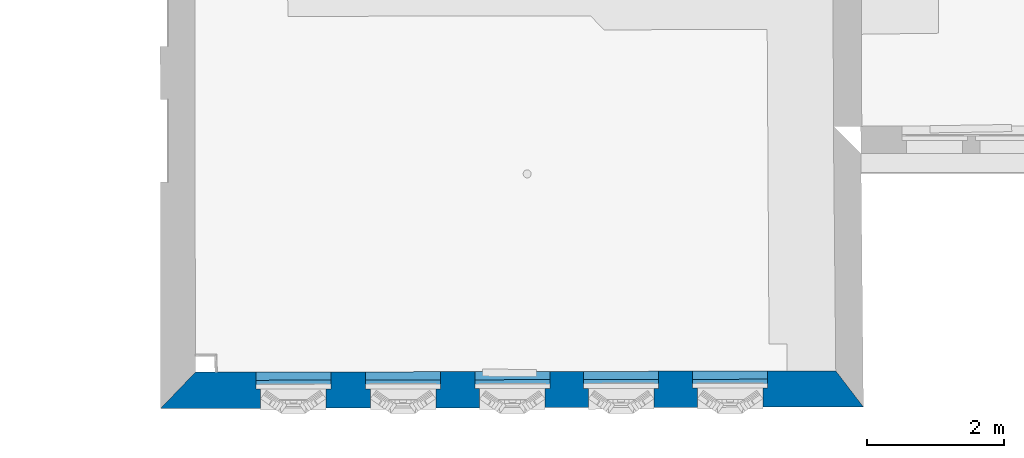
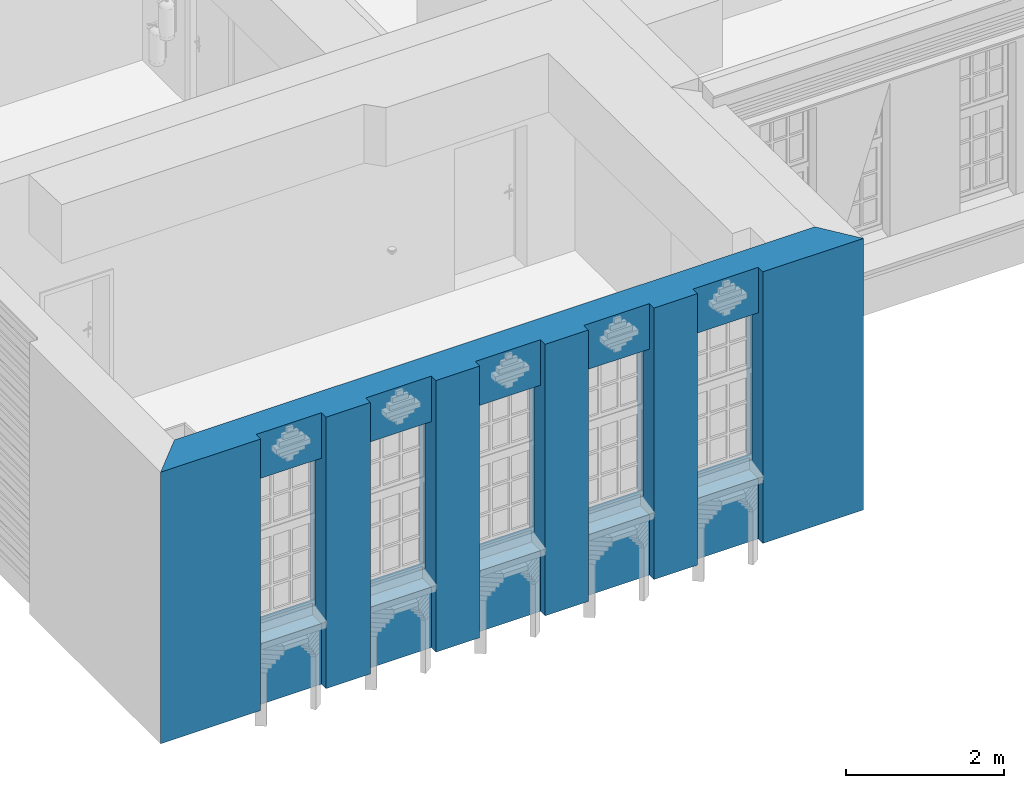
# One storey, part 8 of 90: 1 wall, 10 openings.
"""IFC2X3 building model written with IfcOpenShell, lengths in metres."""

import ifcopenshell
import ifcopenshell.guid

model = None  # the IFC model being written
_history = None  # IfcOwnerHistory: only IFC2X3 demands one
_inside = {}  # id of a spatial element -> (the spatial element, [elements in it])
_under = {}  # id of a project, library or spatial element -> (it, [spatial elements below it])
_declared = {}  # id of a project -> (the project, [libraries it declares])
_typed = {}  # id of a type object -> (the type object, [elements of that type])
_made_of = {}  # id of a material, layer set ... -> (it, [elements and type objects made of it])


def new_model(schema):
    """Start an empty IFC model of exactly this schema.

    Asked for "IFC4X3", IfcOpenShell would pick the latest addendum, in which some entities
    have other attributes; the version numbers below select the first issue.
    IFC2X3 requires an IfcOwnerHistory on every rooted entity: one is made here for all.
    """
    global model, _history
    if schema == "IFC4X3":
        model = ifcopenshell.file(schema_version=(4, 3, 0, 0))
    else:
        model = ifcopenshell.file(schema=schema)
    _inside.clear()
    _under.clear()
    _declared.clear()
    _typed.clear()
    _made_of.clear()
    _history = None
    if model.schema == "IFC2X3":
        org = make("IfcOrganization", Name="unknown")
        user = make(
            "IfcPersonAndOrganization",
            ThePerson=make("IfcPerson", FamilyName="unknown"),
            TheOrganization=org,
        )
        app = make(
            "IfcApplication",
            ApplicationDeveloper=org,
            Version="unknown",
            ApplicationFullName="unknown",
            ApplicationIdentifier="unknown",
        )
        _history = make(
            "IfcOwnerHistory",
            OwningUser=user,
            OwningApplication=app,
            ChangeAction="ADDED",
            CreationDate=0,
        )
    return model


def make(cls, **values):
    """One entity of the class cls with the attributes given. An attribute that is None is left unset."""
    return model.create_entity(
        cls, **{name: value for name, value in values.items() if value is not None}
    )


def entity(cls, *values):
    """Any entity or typed value of the class cls, its attributes in the order of the schema. None: left unset."""
    e = model.create_entity(cls)
    for i, value in enumerate(values):
        if value is not None:
            e[i] = value
    return e


def rooted(cls, **values):
    """An entity with a GlobalId (a new one), such as an element, a storey or a relation."""
    return make(cls, GlobalId=ifcopenshell.guid.new(), OwnerHistory=_history, **values)


def si_unit(unit_type, name, prefix=None):
    """IfcSIUnit, for example si_unit("LENGTHUNIT", "METRE", prefix="MILLI")."""
    return make("IfcSIUnit", UnitType=unit_type, Prefix=prefix, Name=name)


def converted_unit(unit_type, name, factor, base, dimensions=None, offset=None):
    """IfcConversionBasedUnit, such as the inch: factor (a typed value) times the base unit."""
    return make(
        "IfcConversionBasedUnit"
        if offset is None
        else "IfcConversionBasedUnitWithOffset",
        ConversionOffset=offset,
        Dimensions=None
        if dimensions is None
        else entity("IfcDimensionalExponents", *dimensions),
        UnitType=unit_type,
        Name=name,
        ConversionFactor=make(
            "IfcMeasureWithUnit", ValueComponent=factor, UnitComponent=base
        ),
    )


def derived_unit(unit_type, elements):
    """IfcDerivedUnit: a product of units, each with its exponent."""
    return make(
        "IfcDerivedUnit",
        Elements=[
            make("IfcDerivedUnitElement", Unit=unit, Exponent=power)
            for unit, power in elements
        ],
        UnitType=unit_type,
    )


def money_unit(currency):
    """IfcMonetaryUnit."""
    return make("IfcMonetaryUnit", Currency=currency)


def assignment(units):
    """IfcUnitAssignment: the units of a project."""
    return None if units is None else make("IfcUnitAssignment", Units=units)


def point(xyz):
    """IfcCartesianPoint."""
    return None if xyz is None else make("IfcCartesianPoint", Coordinates=xyz)


def direction(xyz):
    """IfcDirection."""
    return None if xyz is None else make("IfcDirection", DirectionRatios=xyz)


def frame(location, z_axis=None, x_axis=None):
    """IfcAxis2Placement3D, a coordinate frame: its origin and axes. An axis left out is left unset."""
    return make(
        "IfcAxis2Placement3D",
        Location=point(location),
        Axis=direction(z_axis),
        RefDirection=direction(x_axis),
    )


def frame_2d(location, x_axis=None):
    """IfcAxis2Placement2D, a coordinate frame in the plane: its origin and x axis."""
    return make(
        "IfcAxis2Placement2D", Location=point(location), RefDirection=direction(x_axis)
    )


def origin_with_axes():
    """The frame at (0, 0, 0) with the z axis (0, 0, 1) and the x axis (1, 0, 0) written out."""
    return frame((0.0, 0.0, 0.0), z_axis=(0.0, 0.0, 1.0), x_axis=(1.0, 0.0, 0.0))


def origin_2d_with_axis():
    """The frame at (0, 0) in the plane with the x axis (1, 0) written out."""
    return frame_2d((0.0, 0.0), x_axis=(1.0, 0.0))


def place(relative_to, where):
    """IfcLocalPlacement: puts the frame where relative to a parent placement (None: the world)."""
    return make(
        "IfcLocalPlacement", PlacementRelTo=relative_to, RelativePlacement=where
    )


def context(
    kind, dimensions, precision=None, world=None, true_north=None, identifier=None
):
    """IfcGeometricRepresentationContext, for example the 3D "Model" context."""
    return make(
        "IfcGeometricRepresentationContext",
        ContextIdentifier=identifier,
        ContextType=kind,
        CoordinateSpaceDimension=dimensions,
        Precision=precision,
        WorldCoordinateSystem=world,
        TrueNorth=true_north,
    )


def subcontext(parent, identifier, kind, view, scale=None):
    """IfcGeometricRepresentationSubContext, for example "Body" below "Model"."""
    return make(
        "IfcGeometricRepresentationSubContext",
        ContextIdentifier=identifier,
        ContextType=kind,
        ParentContext=parent,
        TargetScale=scale,
        TargetView=view,
    )


def project(units=None, contexts=None):
    """IfcProject with its units and contexts."""
    return rooted(
        "IfcProject",
        Name="project",
        RepresentationContexts=contexts,
        UnitsInContext=assignment(units),
    )


def spatial(cls, under=None, at=None, **own):
    """A site, building, storey or space (cls), placed at a placement, below another one or the project."""
    s = rooted(cls, ObjectPlacement=at, **own)
    if under is not None:
        _under.setdefault(under.id(), (under, []))[1].append(s)
    return s


def polyline(points):
    """IfcPolyline through the points."""
    return make("IfcPolyline", Points=[point(p) for p in points])


def profile(cls, at=None, kind="AREA", **sizes):
    """A parametric profile (cls). Its sizes go by their IFC names, for example OverallWidth=200.0."""
    return make(cls, ProfileType=kind, Position=at, **sizes)


def rectangle(**sizes):
    """IfcRectangleProfileDef."""
    return profile("IfcRectangleProfileDef", **sizes)


def outline(outer, holes=None, kind="AREA"):
    """IfcArbitraryClosedProfileDef: a profile drawn as a closed curve; with holes, ...WithVoids."""
    if holes is None:
        return make("IfcArbitraryClosedProfileDef", ProfileType=kind, OuterCurve=outer)
    return make(
        "IfcArbitraryProfileDefWithVoids",
        ProfileType=kind,
        OuterCurve=outer,
        InnerCurves=holes,
    )


def extrude(swept, where, along, depth):
    """IfcExtrudedAreaSolid: the profile swept, set in the frame where, extruded along a direction by depth."""
    return make(
        "IfcExtrudedAreaSolid",
        SweptArea=swept,
        Position=where,
        ExtrudedDirection=direction(along),
        Depth=depth,
    )


def shape(context_of_items, identifier, shape_type, items):
    """IfcShapeRepresentation: the items that make up one representation, for example the "Body"."""
    return make(
        "IfcShapeRepresentation",
        ContextOfItems=context_of_items,
        RepresentationIdentifier=identifier,
        RepresentationType=shape_type,
        Items=items,
    )


def material(Name=None, Category=None):
    """IfcMaterial."""
    return make("IfcMaterial", Name=Name, Category=Category)


def layer(
    of_material, thickness, ventilated=None, Name=None, Category=None, Priority=None
):
    """IfcMaterialLayer: one layer of a wall or slab, of a material (None: an air gap)."""
    return make(
        "IfcMaterialLayer",
        Material=of_material,
        LayerThickness=thickness,
        IsVentilated=ventilated,
        Name=Name,
        Category=Category,
        Priority=Priority,
    )


def layer_set(layers, Name=None):
    """IfcMaterialLayerSet."""
    return make("IfcMaterialLayerSet", MaterialLayers=layers, LayerSetName=Name)


def layer_usage(for_layer_set, set_direction, sense, offset, extent=None):
    """IfcMaterialLayerSetUsage: how a layer set lies in its element."""
    return make(
        "IfcMaterialLayerSetUsage",
        ForLayerSet=for_layer_set,
        LayerSetDirection=set_direction,
        DirectionSense=sense,
        OffsetFromReferenceLine=offset,
        ReferenceExtent=extent,
    )


def made_of(thing, what):
    """Note that an element or type object is made of a material, layer set ...; save() writes the relation."""
    if what is not None:
        _made_of.setdefault(what.id(), (what, []))[1].append(thing)
    return thing


def type_object(cls, material=None, **own):
    """A type object (cls), such as IfcWallType, which elements share."""
    return made_of(rooted(cls, **own), material)


def element(
    cls,
    number,
    at=None,
    inside=None,
    cuts=None,
    type_object=None,
    material=None,
    context=None,
    identifier="Body",
    shape_type=None,
    held_by="IfcProductDefinitionShape",
    body=None,
    shapes=None,
    **own,
):
    """One element of the class cls, such as IfcWall. Its Tag is "e" and its number.

    at: its placement. inside: the storey or other place that contains it. cuts: it is an
    opening in that element (IfcRelVoidsElement). A single representation is given by context,
    identifier, shape_type and body (its items); several are given by shapes. held_by: the class
    of the entity that holds the representations. save() writes the other relations.
    """
    e = rooted(cls, Tag="e%d" % number, ObjectPlacement=at, **own)
    if body is not None:
        shapes = [shape(context, identifier, shape_type, body)]
    if shapes is not None:
        e.Representation = make(held_by, Representations=shapes)
    if inside is not None:
        _inside.setdefault(inside.id(), (inside, []))[1].append(e)
    if cuts is not None:
        rooted(
            "IfcRelVoidsElement", RelatingBuildingElement=cuts, RelatedOpeningElement=e
        )
    if type_object is not None:
        _typed.setdefault(type_object.id(), (type_object, []))[1].append(e)
    return made_of(e, material)


def aggregate(whole, parts):
    """IfcRelAggregates: a whole, such as a stair, and the parts it consists of."""
    return rooted("IfcRelAggregates", RelatingObject=whole, RelatedObjects=parts)


def save(model, path):
    """Write the relations noted so far, then the file.

    IfcRelAggregates (storeys below a building ...), IfcRelContainedInSpatialStructure (elements
    in a storey), IfcRelDefinesByType, IfcRelAssociatesMaterial and IfcRelDeclares: one each for
    every whole, place, type object, material and project.
    """
    for whole, parts in _under.values():
        aggregate(whole, parts)
    for where, things in _inside.values():
        rooted(
            "IfcRelContainedInSpatialStructure",
            RelatedElements=things,
            RelatingStructure=where,
        )
    for kind, things in _typed.values():
        rooted("IfcRelDefinesByType", RelatedObjects=things, RelatingType=kind)
    for what, things in _made_of.values():
        rooted("IfcRelAssociatesMaterial", RelatedObjects=things, RelatingMaterial=what)
    for by, libraries in _declared.values():
        rooted("IfcRelDeclares", RelatingContext=by, RelatedDefinitions=libraries)
    model.write(path)


model = new_model("IFC2X3")

# Units and contexts
model_context = context("Model", 3, precision=1e-05, world=origin_with_axes(), true_north=direction((0.0, 1.0)))
body_context = subcontext(model_context, "Body", "Model", "MODEL_VIEW")
ifc_project = project(units=[si_unit("LENGTHUNIT", "METRE"), si_unit("AREAUNIT", "SQUARE_METRE"), si_unit("VOLUMEUNIT", "CUBIC_METRE"), converted_unit("PLANEANGLEUNIT", "DEGREE", entity("IfcPlaneAngleMeasure", 0.0174532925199), si_unit("PLANEANGLEUNIT", "RADIAN"), dimensions=[0, 0, 0, 0, 0, 0, 0]), money_unit("EUR"), converted_unit("TIMEUNIT", "Year", entity("IfcTimeMeasure", 31556926.0), si_unit("TIMEUNIT", "SECOND"), dimensions=[0, 0, 1, 0, 0, 0, 0]), si_unit("MASSUNIT", "GRAM", prefix="KILO"), si_unit("THERMODYNAMICTEMPERATUREUNIT", "DEGREE_CELSIUS"), si_unit("LUMINOUSINTENSITYUNIT", "LUMEN"), si_unit("ENERGYUNIT", "JOULE", prefix="MEGA"), derived_unit("THERMALCONDUCTANCEUNIT", [(si_unit("POWERUNIT", "WATT"), 1), (si_unit("LENGTHUNIT", "METRE"), -1), (si_unit("THERMODYNAMICTEMPERATUREUNIT", "KELVIN"), -1)]), derived_unit("SPECIFICHEATCAPACITYUNIT", [(si_unit("ENERGYUNIT", "JOULE"), 1), (si_unit("MASSUNIT", "GRAM", prefix="KILO"), -1), (si_unit("THERMODYNAMICTEMPERATUREUNIT", "KELVIN"), -1)]), derived_unit("MASSDENSITYUNIT", [(si_unit("MASSUNIT", "GRAM", prefix="KILO"), 1), (si_unit("VOLUMEUNIT", "CUBIC_METRE"), -1)])], contexts=[model_context])

# Site, building, storey
site_placement = place(None, origin_with_axes())
site = spatial("IfcSite", under=ifc_project, at=site_placement, Name="Gelände", CompositionType="ELEMENT")
building_placement = place(site_placement, origin_with_axes())
building = spatial("IfcBuilding", under=site, at=building_placement, Name="Gebäude", CompositionType="ELEMENT")
storey_placement = place(building_placement, frame((0.0, 0.0, 3.7), z_axis=(0.0, 0.0, 1.0), x_axis=(1.0, 0.0, 0.0)))
storey = spatial("IfcBuildingStorey", under=building, at=storey_placement, Name="1.OBERGESCHOSS", CompositionType="ELEMENT", Elevation=3.7)

# Wall, openings
ifc_material = material(Name="05_ALLGEMEIN - TRAGENDE BAUTEILE")
ifc_layer = layer(ifc_material, 0.53, ventilated="UNKNOWN")
ifc_layer_set = layer_set([ifc_layer], Name="05_ALLGEMEIN - TRAGENDE BAUTEILE 0.53")
ifc_layer_usage = layer_usage(ifc_layer_set, "AXIS2", "NEGATIVE", 0.53)
wall_type = type_object("IfcWallType", Name="05_ALLGEMEIN - TRAGENDE BAUTEILE 530", PredefinedType="ELEMENTEDWALL")
wall_placement = place(storey_placement, frame((-28.0502552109, 6.26018030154, -0.1), z_axis=(0.0, 0.0, 1.0), x_axis=(0.999997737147, 0.00212736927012, 0.0)))
wall = element("IfcWallStandardCase", 1, at=wall_placement, inside=storey, type_object=wall_type, material=ifc_layer_usage, Name="Wand-028", ObjectType="ELEMENTEDWALL", context=body_context, shape_type="SweptSolid", body=[
    extrude(outline(polyline([(0.0, 0.0), (10.2949874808, 0.0), (9.89095180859, 0.53), (0.510632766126, 0.53), (0.0, 0.0)])), origin_with_axes(), (0.0, 0.0, 1.0), 4.2),
])
opening_1_placement = place(wall_placement, frame((8.34167652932, 0.0, 1.1227702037), z_axis=(0.0, 0.0, 1.0), x_axis=(1.0, 0.0, 0.0)))
element("IfcOpeningElement", 2, at=opening_1_placement, cuts=wall, Name="Fenster-015", context=body_context, shape_type="SweptSolid", body=[
    extrude(rectangle(XDim=1.1, YDim=1.12, at=origin_2d_with_axis()), frame((0.0, 0.97, -0.912770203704), z_axis=(0.0, 0.0, 1.0), x_axis=(1.0, 0.0, 0.0)), (0.0, 0.0, 1.0), 0.912770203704),
    extrude(rectangle(XDim=0.96, YDim=2.37387493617, at=origin_2d_with_axis()), frame((0.0, 0.28, 1.18693746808), z_axis=(0.0, 1.0, 0.0), x_axis=(1.0, 0.0, 0.0)), (0.0, 0.0, -1.0), 0.81),
    extrude(rectangle(XDim=1.1, YDim=2.44387493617, at=origin_2d_with_axis()), frame((0.0, 0.28, 1.22193746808), z_axis=(0.0, -1.0, 0.0), x_axis=(1.0, 0.0, 0.0)), (0.0, 0.0, -1.0), 0.78),
    extrude(rectangle(XDim=0.96, YDim=0.186447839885, at=origin_2d_with_axis()), frame((0.0, 0.341042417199, -0.0932239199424), z_axis=(0.0, 1.0, 0.0), x_axis=(1.0, 0.0, 0.0)), (0.0, 0.0, -1.0), 0.591042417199),
])
opening_2_placement = place(wall_placement, frame((6.74645158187, 0.0, 1.1227702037), z_axis=(0.0, 0.0, 1.0), x_axis=(1.0, 0.0, 0.0)))
element("IfcOpeningElement", 3, at=opening_2_placement, cuts=wall, Name="Fenster-015", context=body_context, shape_type="SweptSolid", body=[
    extrude(rectangle(XDim=1.1, YDim=1.12, at=origin_2d_with_axis()), frame((0.0, 0.97, -0.912770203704), z_axis=(0.0, 0.0, 1.0), x_axis=(1.0, 0.0, 0.0)), (0.0, 0.0, 1.0), 0.912770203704),
    extrude(rectangle(XDim=0.96, YDim=2.37387493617, at=origin_2d_with_axis()), frame((0.0, 0.28, 1.18693746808), z_axis=(0.0, 1.0, 0.0), x_axis=(1.0, 0.0, 0.0)), (0.0, 0.0, -1.0), 0.81),
    extrude(rectangle(XDim=1.1, YDim=2.44387493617, at=origin_2d_with_axis()), frame((0.0, 0.28, 1.22193746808), z_axis=(0.0, -1.0, 0.0), x_axis=(1.0, 0.0, 0.0)), (0.0, 0.0, -1.0), 0.78),
    extrude(rectangle(XDim=0.96, YDim=0.186447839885, at=origin_2d_with_axis()), frame((0.0, 0.341042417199, -0.0932239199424), z_axis=(0.0, 1.0, 0.0), x_axis=(1.0, 0.0, 0.0)), (0.0, 0.0, -1.0), 0.591042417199),
])
opening_3_placement = place(wall_placement, frame((5.15381391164, 0.0, 1.1227702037), z_axis=(0.0, 0.0, 1.0), x_axis=(1.0, 0.0, 0.0)))
element("IfcOpeningElement", 4, at=opening_3_placement, cuts=wall, Name="Fenster-015", context=body_context, shape_type="SweptSolid", body=[
    extrude(rectangle(XDim=1.1, YDim=1.12, at=origin_2d_with_axis()), frame((0.0, 0.97, -0.912770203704), z_axis=(0.0, 0.0, 1.0), x_axis=(1.0, 0.0, 0.0)), (0.0, 0.0, 1.0), 0.912770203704),
    extrude(rectangle(XDim=0.96, YDim=2.37387493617, at=origin_2d_with_axis()), frame((0.0, 0.28, 1.18693746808), z_axis=(0.0, 1.0, 0.0), x_axis=(1.0, 0.0, 0.0)), (0.0, 0.0, -1.0), 0.81),
    extrude(rectangle(XDim=1.1, YDim=2.44387493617, at=origin_2d_with_axis()), frame((0.0, 0.28, 1.22193746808), z_axis=(0.0, -1.0, 0.0), x_axis=(1.0, 0.0, 0.0)), (0.0, 0.0, -1.0), 0.78),
    extrude(rectangle(XDim=0.96, YDim=0.186447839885, at=origin_2d_with_axis()), frame((0.0, 0.341042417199, -0.0932239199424), z_axis=(0.0, 1.0, 0.0), x_axis=(1.0, 0.0, 0.0)), (0.0, 0.0, -1.0), 0.591042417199),
])
opening_4_placement = place(wall_placement, frame((3.55329606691, 0.0, 1.1227702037), z_axis=(0.0, 0.0, 1.0), x_axis=(1.0, 0.0, 0.0)))
element("IfcOpeningElement", 5, at=opening_4_placement, cuts=wall, Name="Fenster-015", context=body_context, shape_type="SweptSolid", body=[
    extrude(rectangle(XDim=1.1, YDim=1.12, at=origin_2d_with_axis()), frame((0.0, 0.97, -0.912770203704), z_axis=(0.0, 0.0, 1.0), x_axis=(1.0, 0.0, 0.0)), (0.0, 0.0, 1.0), 0.912770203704),
    extrude(rectangle(XDim=0.96, YDim=2.37387493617, at=origin_2d_with_axis()), frame((0.0, 0.28, 1.18693746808), z_axis=(0.0, 1.0, 0.0), x_axis=(1.0, 0.0, 0.0)), (0.0, 0.0, -1.0), 0.81),
    extrude(rectangle(XDim=1.1, YDim=2.44387493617, at=origin_2d_with_axis()), frame((0.0, 0.28, 1.22193746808), z_axis=(0.0, -1.0, 0.0), x_axis=(1.0, 0.0, 0.0)), (0.0, 0.0, -1.0), 0.78),
    extrude(rectangle(XDim=0.96, YDim=0.186447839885, at=origin_2d_with_axis()), frame((0.0, 0.341042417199, -0.0932239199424), z_axis=(0.0, 1.0, 0.0), x_axis=(1.0, 0.0, 0.0)), (0.0, 0.0, -1.0), 0.591042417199),
])
opening_5_placement = place(wall_placement, frame((1.94552281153, 0.0, 1.1227702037), z_axis=(0.0, 0.0, 1.0), x_axis=(1.0, 0.0, 0.0)))
element("IfcOpeningElement", 6, at=opening_5_placement, cuts=wall, Name="Fenster-015", context=body_context, shape_type="SweptSolid", body=[
    extrude(rectangle(XDim=1.1, YDim=1.12, at=origin_2d_with_axis()), frame((0.0, 0.97, -0.912770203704), z_axis=(0.0, 0.0, 1.0), x_axis=(1.0, 0.0, 0.0)), (0.0, 0.0, 1.0), 0.912770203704),
    extrude(rectangle(XDim=0.96, YDim=2.37387493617, at=origin_2d_with_axis()), frame((0.0, 0.28, 1.18693746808), z_axis=(0.0, 1.0, 0.0), x_axis=(1.0, 0.0, 0.0)), (0.0, 0.0, -1.0), 0.81),
    extrude(rectangle(XDim=1.1, YDim=2.44387493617, at=origin_2d_with_axis()), frame((0.0, 0.28, 1.22193746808), z_axis=(0.0, -1.0, 0.0), x_axis=(1.0, 0.0, 0.0)), (0.0, 0.0, -1.0), 0.78),
    extrude(rectangle(XDim=0.96, YDim=0.186447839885, at=origin_2d_with_axis()), frame((0.0, 0.341042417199, -0.0932239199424), z_axis=(0.0, 1.0, 0.0), x_axis=(1.0, 0.0, 0.0)), (0.0, 0.0, -1.0), 0.591042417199),
])
opening_6_placement = place(wall_placement, frame((6.74645158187, 0.0, 0.0), z_axis=(0.0, 0.0, 1.0), x_axis=(1.0, 0.0, 0.0)))
element("IfcOpeningElement", 7, at=opening_6_placement, cuts=wall, Name="Fenster-015", ObjectType="Recess", context=body_context, shape_type="SweptSolid", body=[
    extrude(rectangle(XDim=0.96, YDim=4.2, at=origin_2d_with_axis()), frame((0.0, 0.11528824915, 2.1), z_axis=(0.0, 1.0, 0.0), x_axis=(1.0, 0.0, 0.0)), (0.0, 0.0, -1.0), 0.64528824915),
])
opening_7_placement = place(wall_placement, frame((8.34167652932, 0.0, 0.0), z_axis=(0.0, 0.0, 1.0), x_axis=(1.0, 0.0, 0.0)))
element("IfcOpeningElement", 8, at=opening_7_placement, cuts=wall, Name="Fenster-015", ObjectType="Recess", context=body_context, shape_type="SweptSolid", body=[
    extrude(rectangle(XDim=0.96, YDim=4.2, at=origin_2d_with_axis()), frame((0.0, 0.11528824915, 2.1), z_axis=(0.0, 1.0, 0.0), x_axis=(1.0, 0.0, 0.0)), (0.0, 0.0, -1.0), 0.64528824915),
])
opening_8_placement = place(wall_placement, frame((5.15381391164, 0.0, 0.0), z_axis=(0.0, 0.0, 1.0), x_axis=(1.0, 0.0, 0.0)))
element("IfcOpeningElement", 9, at=opening_8_placement, cuts=wall, Name="Fenster-015", ObjectType="Recess", context=body_context, shape_type="SweptSolid", body=[
    extrude(rectangle(XDim=0.96, YDim=4.2, at=origin_2d_with_axis()), frame((0.0, 0.11528824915, 2.1), z_axis=(0.0, 1.0, 0.0), x_axis=(1.0, 0.0, 0.0)), (0.0, 0.0, -1.0), 0.64528824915),
])
opening_9_placement = place(wall_placement, frame((3.55329606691, 0.0, 0.0), z_axis=(0.0, 0.0, 1.0), x_axis=(1.0, 0.0, 0.0)))
element("IfcOpeningElement", 10, at=opening_9_placement, cuts=wall, Name="Fenster-015", ObjectType="Recess", context=body_context, shape_type="SweptSolid", body=[
    extrude(rectangle(XDim=0.96, YDim=4.2, at=origin_2d_with_axis()), frame((0.0, 0.11528824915, 2.1), z_axis=(0.0, 1.0, 0.0), x_axis=(1.0, 0.0, 0.0)), (0.0, 0.0, -1.0), 0.64528824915),
])
opening_10_placement = place(wall_placement, frame((1.94552281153, 0.0, 0.0), z_axis=(0.0, 0.0, 1.0), x_axis=(1.0, 0.0, 0.0)))
element("IfcOpeningElement", 11, at=opening_10_placement, cuts=wall, Name="Fenster-015", ObjectType="Recess", context=body_context, shape_type="SweptSolid", body=[
    extrude(rectangle(XDim=0.96, YDim=4.2, at=origin_2d_with_axis()), frame((0.0, 0.11528824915, 2.1), z_axis=(0.0, 1.0, 0.0), x_axis=(1.0, 0.0, 0.0)), (0.0, 0.0, -1.0), 0.64528824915),
])

save(model, "model.ifc")
